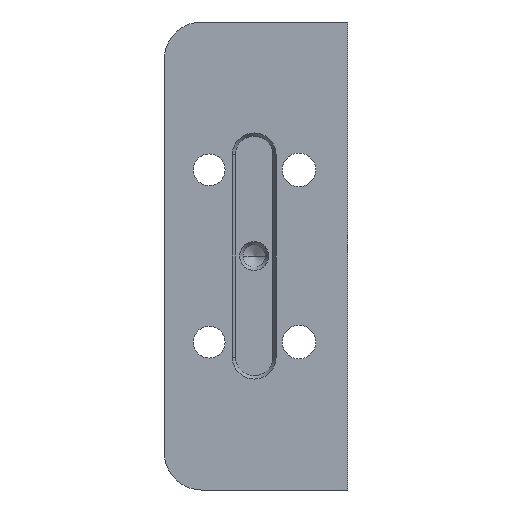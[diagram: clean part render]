
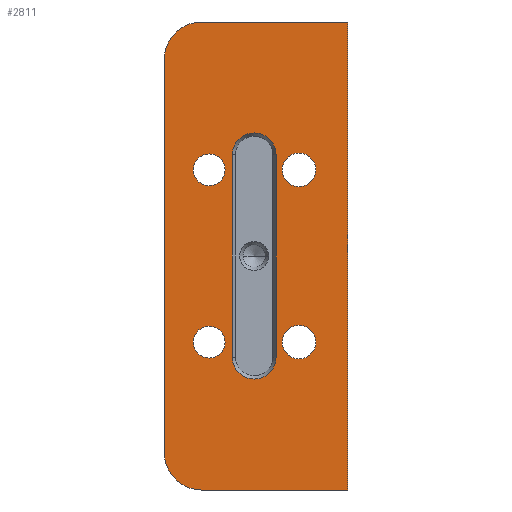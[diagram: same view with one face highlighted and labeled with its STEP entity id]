
A CAD part, front view. The second image highlights one B-rep face of the part: STEP entity #2811.
In plain terms, the highlighted planar face has unit normal (0, -1, 0).
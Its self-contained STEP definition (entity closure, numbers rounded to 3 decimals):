
#6=DIRECTION('',(1.,0.,0.));
#7=VECTOR('',#6,39.);
#8=CARTESIAN_POINT('',(-14.5,-16.,-62.5));
#9=LINE('',#8,#7);
#80=DIRECTION('',(0.,0.,1.));
#81=VECTOR('',#80,125.);
#82=CARTESIAN_POINT('',(24.5,-16.,-62.5));
#83=LINE('',#82,#81);
#152=CARTESIAN_POINT('',(-14.5,-16.,-52.5));
#153=DIRECTION('',(0.,-1.,0.));
#154=DIRECTION('',(-1.,0.,0.));
#155=AXIS2_PLACEMENT_3D('',#152,#153,#154);
#157=DIRECTION('',(0.,0.,1.));
#158=VECTOR('',#157,105.);
#159=CARTESIAN_POINT('',(-24.5,-16.,-52.5));
#160=LINE('',#159,#158);
#161=CARTESIAN_POINT('',(-14.5,-16.,52.5));
#162=DIRECTION('',(0.,-1.,0.));
#163=DIRECTION('',(0.,0.,1.));
#164=AXIS2_PLACEMENT_3D('',#161,#162,#163);
#166=CARTESIAN_POINT('',(-12.5,-16.,-23.));
#167=DIRECTION('',(0.,1.,0.));
#168=DIRECTION('',(1.,0.,0.));
#169=AXIS2_PLACEMENT_3D('',#166,#167,#168);
#171=CARTESIAN_POINT('',(-12.5,-16.,-23.));
#172=DIRECTION('',(0.,1.,0.));
#173=DIRECTION('',(-1.,0.,0.));
#174=AXIS2_PLACEMENT_3D('',#171,#172,#173);
#176=CARTESIAN_POINT('',(-12.5,-16.,23.));
#177=DIRECTION('',(0.,-1.,0.));
#178=DIRECTION('',(1.,0.,0.));
#179=AXIS2_PLACEMENT_3D('',#176,#177,#178);
#181=CARTESIAN_POINT('',(-12.5,-16.,23.));
#182=DIRECTION('',(0.,-1.,0.));
#183=DIRECTION('',(-1.,0.,0.));
#184=AXIS2_PLACEMENT_3D('',#181,#182,#183);
#186=CARTESIAN_POINT('',(11.5,-16.,-23.));
#187=DIRECTION('',(0.,1.,0.));
#188=DIRECTION('',(1.,0.,0.));
#189=AXIS2_PLACEMENT_3D('',#186,#187,#188);
#191=CARTESIAN_POINT('',(11.5,-16.,-23.));
#192=DIRECTION('',(0.,1.,0.));
#193=DIRECTION('',(-1.,0.,0.));
#194=AXIS2_PLACEMENT_3D('',#191,#192,#193);
#196=CARTESIAN_POINT('',(11.5,-16.,23.));
#197=DIRECTION('',(0.,1.,0.));
#198=DIRECTION('',(1.,0.,0.));
#199=AXIS2_PLACEMENT_3D('',#196,#197,#198);
#201=CARTESIAN_POINT('',(11.5,-16.,23.));
#202=DIRECTION('',(0.,1.,0.));
#203=DIRECTION('',(-1.,0.,0.));
#204=AXIS2_PLACEMENT_3D('',#201,#202,#203);
#206=CARTESIAN_POINT('',(-0.5,-16.,27.));
#207=DIRECTION('',(0.,1.,0.));
#208=DIRECTION('',(-1.,0.,0.));
#209=AXIS2_PLACEMENT_3D('',#206,#207,#208);
#211=DIRECTION('',(0.,0.,1.));
#212=VECTOR('',#211,54.);
#213=CARTESIAN_POINT('',(-6.366,-16.,
-27.));
#214=LINE('',#213,#212);
#215=CARTESIAN_POINT('',(-0.5,-16.,-27.));
#216=DIRECTION('',(0.,1.,0.));
#217=DIRECTION('',(1.,0.,0.));
#218=AXIS2_PLACEMENT_3D('',#215,#216,#217);
#220=DIRECTION('',(0.,0.,-1.));
#221=VECTOR('',#220,54.);
#222=CARTESIAN_POINT('',(5.366,-16.,27.));
#223=LINE('',#222,#221);
#240=DIRECTION('',(1.,0.,0.));
#241=VECTOR('',#240,39.);
#242=CARTESIAN_POINT('',(-14.5,-16.,62.5));
#243=LINE('',#242,#241);
#1994=CARTESIAN_POINT('',(24.5,-16.,-62.5));
#1995=CARTESIAN_POINT('',(24.5,-16.,62.5));
#1996=VERTEX_POINT('',#1994);
#1997=VERTEX_POINT('',#1995);
#2006=CARTESIAN_POINT('',(-8.25,-16.,-23.));
#2007=CARTESIAN_POINT('',(-16.75,-16.,-23.));
#2008=VERTEX_POINT('',#2006);
#2009=VERTEX_POINT('',#2007);
#2018=CARTESIAN_POINT('',(-8.25,-16.,23.));
#2019=VERTEX_POINT('',#2018);
#2020=CARTESIAN_POINT('',(-16.75,-16.,23.));
#2021=VERTEX_POINT('',#2020);
#2050=CARTESIAN_POINT('',(-24.5,-16.,-52.5));
#2051=VERTEX_POINT('',#2050);
#2052=CARTESIAN_POINT('',(-14.5,-16.,-62.5));
#2053=VERTEX_POINT('',#2052);
#2054=CARTESIAN_POINT('',(-14.5,-16.,62.5));
#2055=CARTESIAN_POINT('',(-24.5,-16.,52.5));
#2056=VERTEX_POINT('',#2054);
#2057=VERTEX_POINT('',#2055);
#2086=CARTESIAN_POINT('',(16.,-16.,-23.));
#2087=CARTESIAN_POINT('',(7.,-16.,-23.));
#2088=VERTEX_POINT('',#2086);
#2089=VERTEX_POINT('',#2087);
#2090=CARTESIAN_POINT('',(16.,-16.,23.));
#2091=CARTESIAN_POINT('',(7.,-16.,23.));
#2092=VERTEX_POINT('',#2090);
#2093=VERTEX_POINT('',#2091);
#2402=CARTESIAN_POINT('',(-6.366,-16.,27.));
#2403=CARTESIAN_POINT('',(5.366,-16.,27.));
#2404=VERTEX_POINT('',#2402);
#2405=VERTEX_POINT('',#2403);
#2410=CARTESIAN_POINT('',(5.366,-16.,
-27.));
#2411=VERTEX_POINT('',#2410);
#2414=CARTESIAN_POINT('',(-6.366,-16.,-27.));
#2415=VERTEX_POINT('',#2414);
#2760=CARTESIAN_POINT('',(-24.5,-16.,-62.5));
#2761=DIRECTION('',(0.,-1.,0.));
#2762=DIRECTION('',(1.,0.,0.));
#2763=AXIS2_PLACEMENT_3D('',#2760,#2761,#2762);
#2764=PLANE('',#2763);
#2766=ORIENTED_EDGE('',*,*,#2765,.F.);
#2768=ORIENTED_EDGE('',*,*,#2767,.T.);
#2770=ORIENTED_EDGE('',*,*,#2769,.F.);
#2772=ORIENTED_EDGE('',*,*,#2771,.T.);
#2773=ORIENTED_EDGE('',*,*,#2631,.F.);
#2774=ORIENTED_EDGE('',*,*,#2521,.F.);
#2775=EDGE_LOOP('',(#2766,#2768,#2770,#2772,#2773,#2774));
#2776=FACE_OUTER_BOUND('',#2775,.F.);
#2778=ORIENTED_EDGE('',*,*,#2777,.F.);
#2780=ORIENTED_EDGE('',*,*,#2779,.F.);
#2781=EDGE_LOOP('',(#2778,#2780));
#2782=FACE_BOUND('',#2781,.F.);
#2784=ORIENTED_EDGE('',*,*,#2783,.T.);
#2786=ORIENTED_EDGE('',*,*,#2785,.T.);
#2787=EDGE_LOOP('',(#2784,#2786));
#2788=FACE_BOUND('',#2787,.F.);
#2790=ORIENTED_EDGE('',*,*,#2789,.F.);
#2792=ORIENTED_EDGE('',*,*,#2791,.F.);
#2793=EDGE_LOOP('',(#2790,#2792));
#2794=FACE_BOUND('',#2793,.F.);
#2796=ORIENTED_EDGE('',*,*,#2795,.F.);
#2798=ORIENTED_EDGE('',*,*,#2797,.F.);
#2799=EDGE_LOOP('',(#2796,#2798));
#2800=FACE_BOUND('',#2799,.F.);
#2802=ORIENTED_EDGE('',*,*,#2801,.F.);
#2804=ORIENTED_EDGE('',*,*,#2803,.F.);
#2806=ORIENTED_EDGE('',*,*,#2805,.F.);
#2808=ORIENTED_EDGE('',*,*,#2807,.F.);
#2809=EDGE_LOOP('',(#2802,#2804,#2806,#2808));
#2810=FACE_BOUND('',#2809,.F.);
#2811=ADVANCED_FACE('',(#2776,#2782,#2788,#2794,#2800,#2810),#2764,.T.);
#156=CIRCLE('',#155,10.);
#165=CIRCLE('',#164,10.);
#170=CIRCLE('',#169,4.25);
#175=CIRCLE('',#174,4.25);
#180=CIRCLE('',#179,4.25);
#185=CIRCLE('',#184,4.25);
#190=CIRCLE('',#189,4.5);
#195=CIRCLE('',#194,4.5);
#200=CIRCLE('',#199,4.5);
#205=CIRCLE('',#204,4.5);
#210=CIRCLE('',#209,5.866);
#219=CIRCLE('',#218,5.866);
#2521=EDGE_CURVE('',#2053,#1996,#9,.T.);
#2631=EDGE_CURVE('',#1996,#1997,#83,.T.);
#2765=EDGE_CURVE('',#2051,#2053,#156,.T.);
#2767=EDGE_CURVE('',#2051,#2057,#160,.T.);
#2769=EDGE_CURVE('',#2056,#2057,#165,.T.);
#2771=EDGE_CURVE('',#2056,#1997,#243,.T.);
#2777=EDGE_CURVE('',#2008,#2009,#170,.T.);
#2779=EDGE_CURVE('',#2009,#2008,#175,.T.);
#2783=EDGE_CURVE('',#2019,#2021,#180,.T.);
#2785=EDGE_CURVE('',#2021,#2019,#185,.T.);
#2789=EDGE_CURVE('',#2088,#2089,#190,.T.);
#2791=EDGE_CURVE('',#2089,#2088,#195,.T.);
#2795=EDGE_CURVE('',#2092,#2093,#200,.T.);
#2797=EDGE_CURVE('',#2093,#2092,#205,.T.);
#2801=EDGE_CURVE('',#2404,#2405,#210,.T.);
#2803=EDGE_CURVE('',#2415,#2404,#214,.T.);
#2805=EDGE_CURVE('',#2411,#2415,#219,.T.);
#2807=EDGE_CURVE('',#2405,#2411,#223,.T.);
